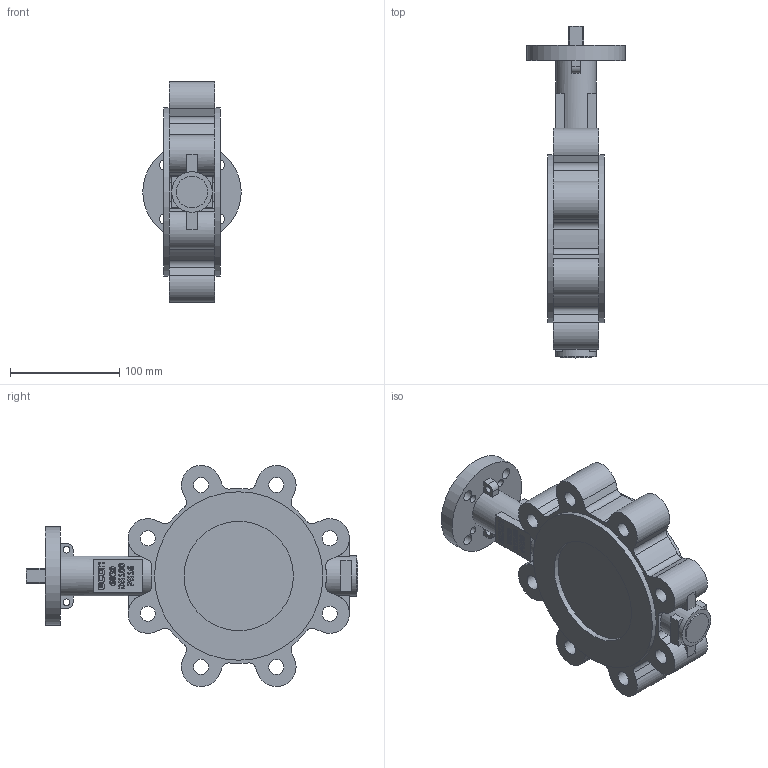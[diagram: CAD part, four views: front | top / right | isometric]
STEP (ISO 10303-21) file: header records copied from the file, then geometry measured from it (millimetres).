
FILE_DESCRIPTION(/* description */ (''),/* implementation_level */ '2;1');
FILE_NAME(/* name */ '6820-DN100-PN16-NBR - 13332781.stp',/* time_stamp */ '2024-09-04T21:57:16+02:00',/* author */ ('roger.thijssen'),/* organization */ (''),/* preprocessor_version */ 'ST-DEVELOPER v20',/* originating_system */ 'Autodesk Inventor 2024',/* authorisation */ '');
FILE_SCHEMA (('AUTOMOTIVE_DESIGN { 1 0 10303 214 3 1 1 }'));
Length unit declared in the file: millimetre
Products named in the file (1): 6820-DN100-PN16
Bounding box: 90 x 303.5 x 202.26 mm (x, y, z)
Volume: 1419674.4 mm3; surface area: 141768.1 mm2
Topology: 1 solids, 1 shells, 492 faces, 1331 edges, 883 vertices
Faces by surface type: plane 262, bspline 128, cylinder 97, cone 5
Full cylindrical faces by diameter (mm): 4.917 x1, 6 x2, 7 x4, 10 x4, 13.835 x8, 29 x1, 37 x2, 90 x1, 100 x2, 154 x2
Entity records: 17232 total; most frequent: CARTESIAN_POINT 4909, ORIENTED_EDGE 2660, DIRECTION 2010, EDGE_CURVE 1330, VERTEX_POINT 883, LINE 824, VECTOR 824, AXIS2_PLACEMENT_3D 593
